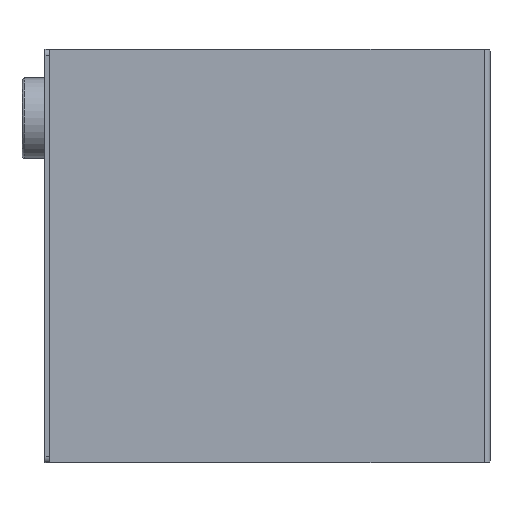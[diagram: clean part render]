
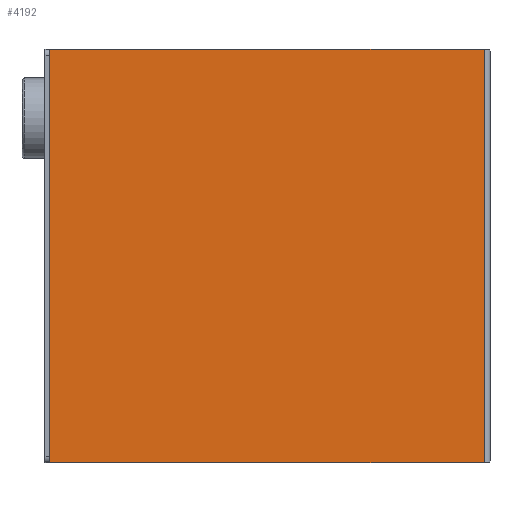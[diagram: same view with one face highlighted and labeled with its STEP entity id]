
A CAD part, left-side view. The second image highlights one B-rep face of the part: STEP entity #4192.
In plain terms, the highlighted planar face has unit normal (-1, 0, 0) as drawn and (1, 0, 0) by its records, which use the part's own axes.
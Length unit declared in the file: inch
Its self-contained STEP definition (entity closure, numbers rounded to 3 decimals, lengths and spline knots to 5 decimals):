
#466 = EDGE_CURVE ( 'NONE', #3735, #6473, #6223, .T. ) ;
#569 = DIRECTION ( 'NONE',  ( -1., 0., 0. ) ) ;
#713 = LINE ( 'NONE', #5160, #4519 ) ;
#1072 = CARTESIAN_POINT ( 'NONE',  ( 0., -9.34375, -9. ) ) ;
#1119 = VECTOR ( 'NONE', #2608, 39.37008 ) ;
#1153 = EDGE_LOOP ( 'NONE', ( #3248, #5113, #2996, #1156 ) ) ;
#1156 = ORIENTED_EDGE ( 'NONE', *, *, #5850, .T. ) ;
#1312 = DIRECTION ( 'NONE',  ( 0., 0., 1. ) ) ;
#1422 = CARTESIAN_POINT ( 'NONE',  ( 0., -9.34375, 9. ) ) ;
#1658 = AXIS2_PLACEMENT_3D ( 'NONE', #8211, #569, #5033 ) ;
#2180 = CARTESIAN_POINT ( 'NONE',  ( 0., 9.59375, -9. ) ) ;
#2285 = DIRECTION ( 'NONE',  ( 0., -1., 0. ) ) ;
#2392 = CARTESIAN_POINT ( 'NONE',  ( 0., -9.59375, -9. ) ) ;
#2608 = DIRECTION ( 'NONE',  ( 0., 0., -1. ) ) ;
#2634 = CARTESIAN_POINT ( 'NONE',  ( 0., 9.59375, 9. ) ) ;
#2740 = LINE ( 'NONE', #6111, #5930 ) ;
#2890 = EDGE_CURVE ( 'NONE', #6473, #5168, #6046, .T. ) ;
#2996 = ORIENTED_EDGE ( 'NONE', *, *, #4849, .T. ) ;
#3248 = ORIENTED_EDGE ( 'NONE', *, *, #466, .T. ) ;
#3681 = DIRECTION ( 'NONE',  ( 0., 1., 0. ) ) ;
#3735 = VERTEX_POINT ( 'NONE', #1422 ) ;
#3764 = PLANE ( 'NONE',  #1658 ) ;
#4192 = ADVANCED_FACE ( 'NONE', ( #5233 ), #3764, .F. ) ;
#4519 = VECTOR ( 'NONE', #1312, 39.37008 ) ;
#4849 = EDGE_CURVE ( 'NONE', #5168, #8209, #713, .T. ) ;
#5033 = DIRECTION ( 'NONE',  ( 0., 0., 1. ) ) ;
#5113 = ORIENTED_EDGE ( 'NONE', *, *, #2890, .T. ) ;
#5160 = CARTESIAN_POINT ( 'NONE',  ( 0., 9.59375, 9. ) ) ;
#5168 = VERTEX_POINT ( 'NONE', #2180 ) ;
#5233 = FACE_OUTER_BOUND ( 'NONE', #1153, .T. ) ;
#5850 = EDGE_CURVE ( 'NONE', #8209, #3735, #2740, .T. ) ;
#5930 = VECTOR ( 'NONE', #2285, 39.37008 ) ;
#6046 = LINE ( 'NONE', #2392, #7952 ) ;
#6111 = CARTESIAN_POINT ( 'NONE',  ( 0., -9.59375, 9. ) ) ;
#6223 = LINE ( 'NONE', #7582, #1119 ) ;
#6473 = VERTEX_POINT ( 'NONE', #1072 ) ;
#7582 = CARTESIAN_POINT ( 'NONE',  ( 0., -9.34375, 9. ) ) ;
#7952 = VECTOR ( 'NONE', #3681, 39.37008 ) ;
#8209 = VERTEX_POINT ( 'NONE', #2634 ) ;
#8211 = CARTESIAN_POINT ( 'NONE',  ( 0., 0., 0. ) ) ;
